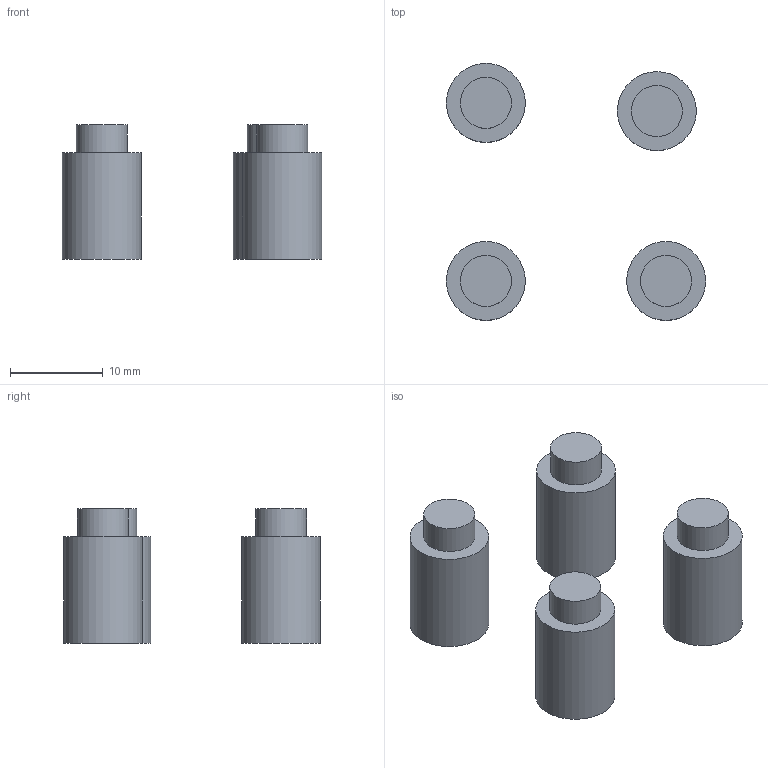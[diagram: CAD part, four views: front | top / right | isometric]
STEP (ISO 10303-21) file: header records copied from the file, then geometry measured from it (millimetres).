
FILE_DESCRIPTION(('STEP AP203'), '1');
FILE_NAME('庋恘岓', '', ('UNSPECIFIED'), ('UNSPECIFIED'), 'C3D Converter', 'C3D Toolkit', '');
FILE_SCHEMA(('CONFIG_CONTROL_DESIGN'));
Length unit declared in the file: millimetre
Bounding box: 27.92 x 27.68 x 14.5 mm (x, y, z)
Volume: 2895.4 mm3; surface area: 1889.7 mm2
Topology: 4 solids, 4 shells, 20 faces, 24 edges, 16 vertices
Faces by surface type: plane 12, cylinder 8
Full cylindrical faces by diameter (mm): 5.5 x4, 8.5 x4
Entity records: 422 total; most frequent: DIRECTION 74, CARTESIAN_POINT 53, AXIS2_PLACEMENT_3D 37, EDGE_LOOP 32, ORIENTED_EDGE 32, ADVANCED_FACE 20, FACE_BOUND 16, FACE_OUTER_BOUND 16
